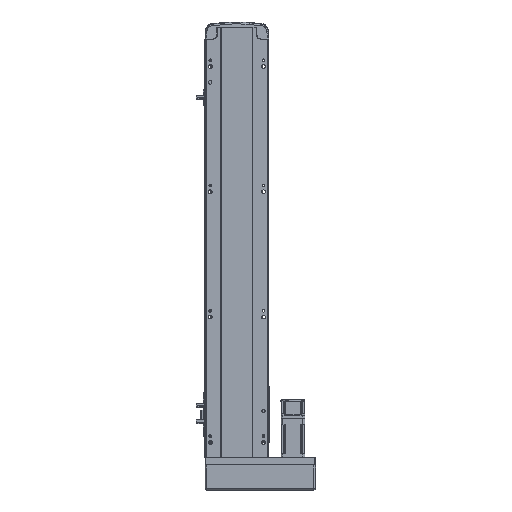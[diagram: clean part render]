
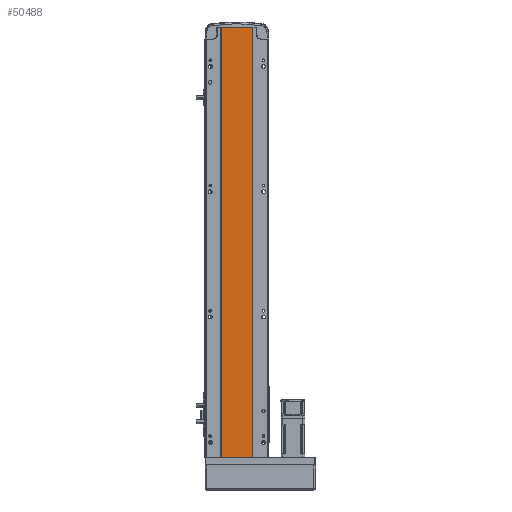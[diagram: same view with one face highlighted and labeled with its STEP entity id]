
A CAD part, front view. The second image highlights one B-rep face of the part: STEP entity #50488.
In plain terms, the highlighted planar face has unit normal (0, -1, 0).
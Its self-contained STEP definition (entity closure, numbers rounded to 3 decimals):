
#129 = DIRECTION ( 'NONE',  ( 0., 0., -1. ) ) ;
#160 = CARTESIAN_POINT ( 'NONE',  ( 0., 2., 687. ) ) ;
#2372 = VERTEX_POINT ( 'NONE', #37881 ) ;
#3062 = VERTEX_POINT ( 'NONE', #13917 ) ;
#5458 = ORIENTED_EDGE ( 'NONE', *, *, #56569, .T. ) ;
#5626 = VERTEX_POINT ( 'NONE', #40258 ) ;
#8950 = FACE_OUTER_BOUND ( 'NONE', #47751, .T. ) ;
#10194 = EDGE_CURVE ( 'NONE', #2372, #5626, #50955, .T. ) ;
#13917 = CARTESIAN_POINT ( 'NONE',  ( 24.5, 2., 0. ) ) ;
#17829 = CARTESIAN_POINT ( 'NONE',  ( -24.5, 2., 687. ) ) ;
#20755 = EDGE_CURVE ( 'NONE', #5626, #3062, #52256, .T. ) ;
#23936 = VERTEX_POINT ( 'NONE', #34944 ) ;
#26315 = PLANE ( 'NONE',  #50121 ) ;
#27619 = EDGE_CURVE ( 'NONE', #2372, #23936, #48252, .T. ) ;
#29495 = VECTOR ( 'NONE', #47357, 1000. ) ;
#31741 = DIRECTION ( 'NONE',  ( 0., 0., -1. ) ) ;
#34944 = CARTESIAN_POINT ( 'NONE',  ( -24.5, 2., 0. ) ) ;
#35510 = CARTESIAN_POINT ( 'NONE',  ( -24.5, 2., 687. ) ) ;
#35640 = DIRECTION ( 'NONE',  ( 0., 1., 0. ) ) ;
#35706 = DIRECTION ( 'NONE',  ( 1., 0., 0. ) ) ;
#37881 = CARTESIAN_POINT ( 'NONE',  ( -24.5, 2., 687. ) ) ;
#39223 = VECTOR ( 'NONE', #35706, 1000. ) ;
#40081 = DIRECTION ( 'NONE',  ( 0., 0., 1. ) ) ;
#40258 = CARTESIAN_POINT ( 'NONE',  ( 24.5, 2., 687. ) ) ;
#40526 = VECTOR ( 'NONE', #129, 1000. ) ;
#44252 = ORIENTED_EDGE ( 'NONE', *, *, #10194, .F. ) ;
#47357 = DIRECTION ( 'NONE',  ( 1., 0., 0. ) ) ;
#47751 = EDGE_LOOP ( 'NONE', ( #5458, #48788, #44252, #52810 ) ) ;
#48252 = LINE ( 'NONE', #17829, #53072 ) ;
#48788 = ORIENTED_EDGE ( 'NONE', *, *, #20755, .F. ) ;
#49605 = LINE ( 'NONE', #51235, #29495 ) ;
#50121 = AXIS2_PLACEMENT_3D ( 'NONE', #160, #35640, #40081 ) ;
#50488 = ADVANCED_FACE ( 'NONE', ( #8950 ), #26315, .F. ) ;
#50955 = LINE ( 'NONE', #35510, #39223 ) ;
#51235 = CARTESIAN_POINT ( 'NONE',  ( 0., 2., 0. ) ) ;
#52256 = LINE ( 'NONE', #53192, #40526 ) ;
#52810 = ORIENTED_EDGE ( 'NONE', *, *, #27619, .T. ) ;
#53072 = VECTOR ( 'NONE', #31741, 1000. ) ;
#53192 = CARTESIAN_POINT ( 'NONE',  ( 24.5, 2., 687. ) ) ;
#56569 = EDGE_CURVE ( 'NONE', #23936, #3062, #49605, .T. ) ;
